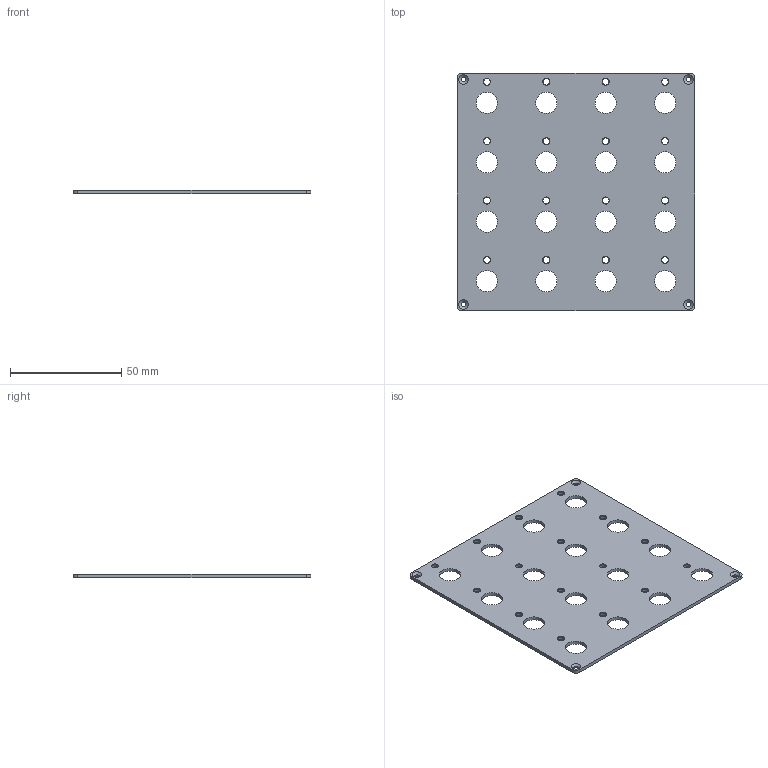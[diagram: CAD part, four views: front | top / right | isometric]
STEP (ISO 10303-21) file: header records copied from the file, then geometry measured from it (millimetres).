
FILE_DESCRIPTION(('FreeCAD Model'),'2;1');
FILE_NAME('/media/sf_Mechanical/G4 Mech/Source/FRONTPANEL/B16.step', '2018-09-25T13:37:57',('Author'),(''), 'Open CASCADE STEP processor 6.8','FreeCAD','Unknown');
FILE_SCHEMA(('AUTOMOTIVE_DESIGN_CC2 { 1 2 10303 214 -1 1 5 4 }'));
Length unit declared in the file: millimetre
Products named in the file (2): ASSEMBLY; Light2
Assembly tree (1 placements, depth 2):
  ASSEMBLY
    Light2
Bounding box: 106.6 x 106.6 x 1.6 mm (x, y, z)
Volume: 16132.1 mm3; surface area: 21914.7 mm2
Topology: 1 solids, 1 shells, 82 faces, 188 edges, 124 vertices
Faces by surface type: cylinder 56, plane 22, cone 4
Full cylindrical faces by diameter (mm): 2.2 x4, 3 x16, 3.2 x16, 9.5 x16
Entity records: 5319 total; most frequent: CARTESIAN_POINT 1428, DIRECTION 732, ORIENTED_EDGE 376, PCURVE 376, DEFINITIONAL_REPRESENTATION 376, LINE 328, VECTOR 328, AXIS2_PLACEMENT_3D 200
